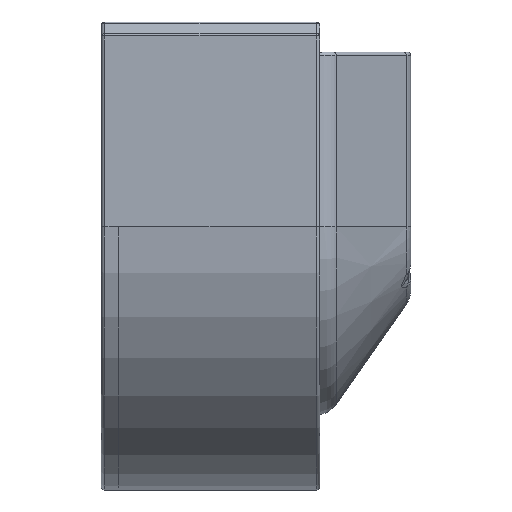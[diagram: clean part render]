
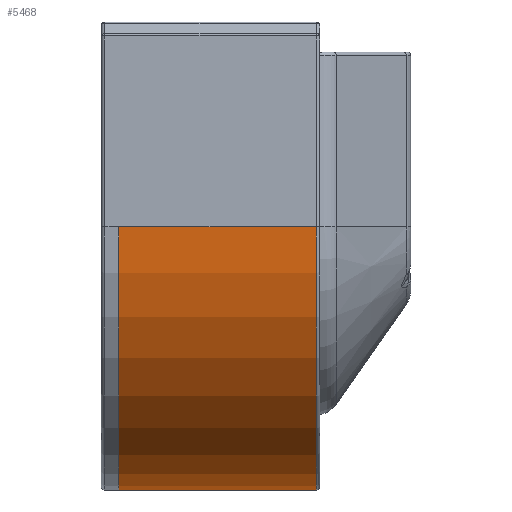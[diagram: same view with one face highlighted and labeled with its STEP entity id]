
A CAD part, left-side view. The second image highlights one B-rep face of the part: STEP entity #5468.
In plain terms, the highlighted cylindrical face has radius 15.05 mm (diameter 30.1 mm), a partial arc.
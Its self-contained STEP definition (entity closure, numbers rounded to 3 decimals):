
#1146 = EDGE_CURVE ( 'NONE', #13391, #13860, #13616, .T. ) ;
#1805 = EDGE_CURVE ( 'NONE', #13860, #2141, #7998, .T. ) ;
#2041 = VERTEX_POINT ( 'NONE', #2631 ) ;
#2141 = VERTEX_POINT ( 'NONE', #5122 ) ;
#2152 = CARTESIAN_POINT ( 'NONE',  ( 0., 5.5, -6.65 ) ) ;
#2169 = AXIS2_PLACEMENT_3D ( 'NONE', #13586, #6502, #5609 ) ;
#2431 = ORIENTED_EDGE ( 'NONE', *, *, #13571, .F. ) ;
#2631 = CARTESIAN_POINT ( 'NONE',  ( 0., 5.5, -6.65 ) ) ;
#3267 = FACE_OUTER_BOUND ( 'NONE', #10644, .T. ) ;
#3595 = DIRECTION ( 'NONE',  ( -1., 0., 0. ) ) ;
#4184 = DIRECTION ( 'NONE',  ( 0., 1., 0. ) ) ;
#4674 = ORIENTED_EDGE ( 'NONE', *, *, #14374, .T. ) ;
#5122 = CARTESIAN_POINT ( 'NONE',  ( -15.05, 5.5, 8.4 ) ) ;
#5468 = ADVANCED_FACE ( 'NONE', ( #3267 ), #6588, .T. ) ;
#5586 = CARTESIAN_POINT ( 'NONE',  ( -15.05, 5.5, 8.4 ) ) ;
#5609 = DIRECTION ( 'NONE',  ( 0., 0., -1. ) ) ;
#5735 = VECTOR ( 'NONE', #7907, 1000. ) ;
#6473 = DIRECTION ( 'NONE',  ( 0., 0., -1. ) ) ;
#6502 = DIRECTION ( 'NONE',  ( 0., -1., 0. ) ) ;
#6588 = CYLINDRICAL_SURFACE ( 'NONE', #2169, 15.05 ) ;
#7127 = AXIS2_PLACEMENT_3D ( 'NONE', #7910, #12506, #6473 ) ;
#7135 = DIRECTION ( 'NONE',  ( 0., -1., 0. ) ) ;
#7296 = AXIS2_PLACEMENT_3D ( 'NONE', #10000, #7135, #3595 ) ;
#7907 = DIRECTION ( 'NONE',  ( 0., 1., 0. ) ) ;
#7910 = CARTESIAN_POINT ( 'NONE',  ( 0., -5.8, 8.4 ) ) ;
#7998 = LINE ( 'NONE', #5586, #5735 ) ;
#8408 = CARTESIAN_POINT ( 'NONE',  ( 0., -5.8, -6.65 ) ) ;
#9421 = VECTOR ( 'NONE', #4184, 1000. ) ;
#9513 = CARTESIAN_POINT ( 'NONE',  ( -15.05, -5.8, 8.4 ) ) ;
#9637 = ORIENTED_EDGE ( 'NONE', *, *, #1146, .T. ) ;
#9677 = CIRCLE ( 'NONE', #7296, 15.05 ) ;
#10000 = CARTESIAN_POINT ( 'NONE',  ( 0., 5.5, 8.4 ) ) ;
#10456 = ORIENTED_EDGE ( 'NONE', *, *, #1805, .T. ) ;
#10644 = EDGE_LOOP ( 'NONE', ( #2431, #9637, #10456, #4674 ) ) ;
#12506 = DIRECTION ( 'NONE',  ( 0., 1., 0. ) ) ;
#13391 = VERTEX_POINT ( 'NONE', #8408 ) ;
#13571 = EDGE_CURVE ( 'NONE', #13391, #2041, #14800, .T. ) ;
#13586 = CARTESIAN_POINT ( 'NONE',  ( 0., 5.5, 8.4 ) ) ;
#13616 = CIRCLE ( 'NONE', #7127, 15.05 ) ;
#13860 = VERTEX_POINT ( 'NONE', #9513 ) ;
#14374 = EDGE_CURVE ( 'NONE', #2141, #2041, #9677, .T. ) ;
#14800 = LINE ( 'NONE', #2152, #9421 ) ;
